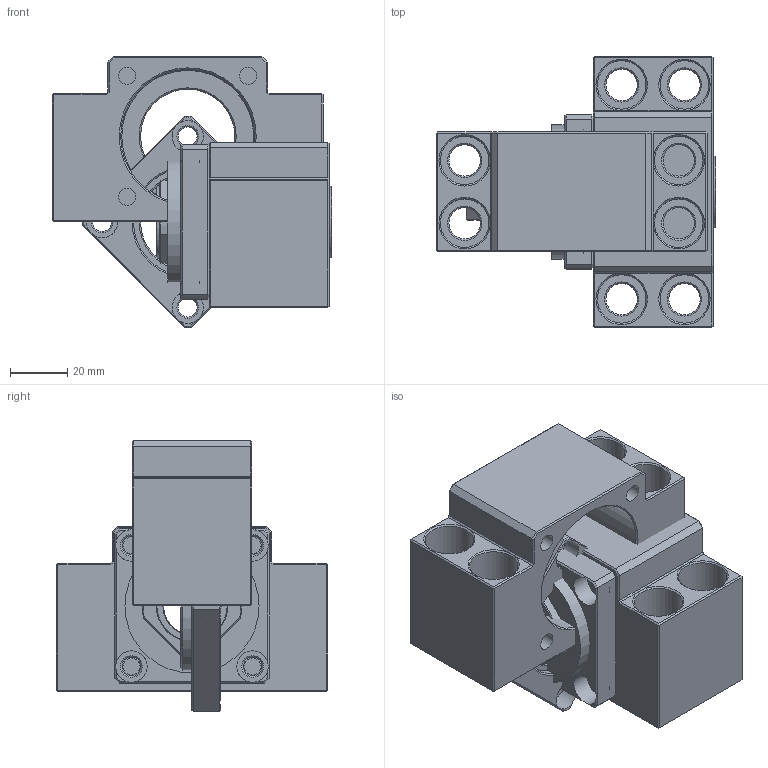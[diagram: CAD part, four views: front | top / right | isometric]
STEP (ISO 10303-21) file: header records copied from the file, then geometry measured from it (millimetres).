
FILE_DESCRIPTION( ( 'Unknown' ), '1' );
FILE_NAME( 'D:/3D/憮んお嶸棉/20060119/SAK TYPE/SAK20/SAK20(ASSM).stp', 'Unknown', ( 'Unknown' ), ( 'Unknown' ), 'XStep 1.0', 'Unknown', ' ' );
FILE_SCHEMA( ( 'CONFIG_CONTROL_DESIGN' ) );
Length unit declared in the file: millimetre
Products named in the file (9): Assem1; SAK20(locknut); SAK20(collar); SAK20(bearing); SAK20(seal); SAK20(housing); SAK20(holdinglid)
Bounding box: 98 x 95 x 95 mm (x, y, z)
Volume: 379833 mm3; surface area: 125751.8 mm2
Topology: 16 solids, 16 shells, 404 faces, 878 edges, 522 vertices
Faces by surface type: plane 214, cone 94, cylinder 92, bspline 2, torus 2
Full cylindrical faces by diameter (mm): 4 x2, 6 x8, 6.6 x8, 11 x16, 17 x8, 20 x10, 25 x6, 29 x2, 33 x6, 38 x2, 47 x8
Entity records: 5528 total; most frequent: CARTESIAN_POINT 1041, DIRECTION 883, ORIENTED_EDGE 696, AXIS2_PLACEMENT_3D 360, EDGE_CURVE 348, EDGE_LOOP 315, FACE_OUTER_BOUND 242, VERTEX_POINT 241
